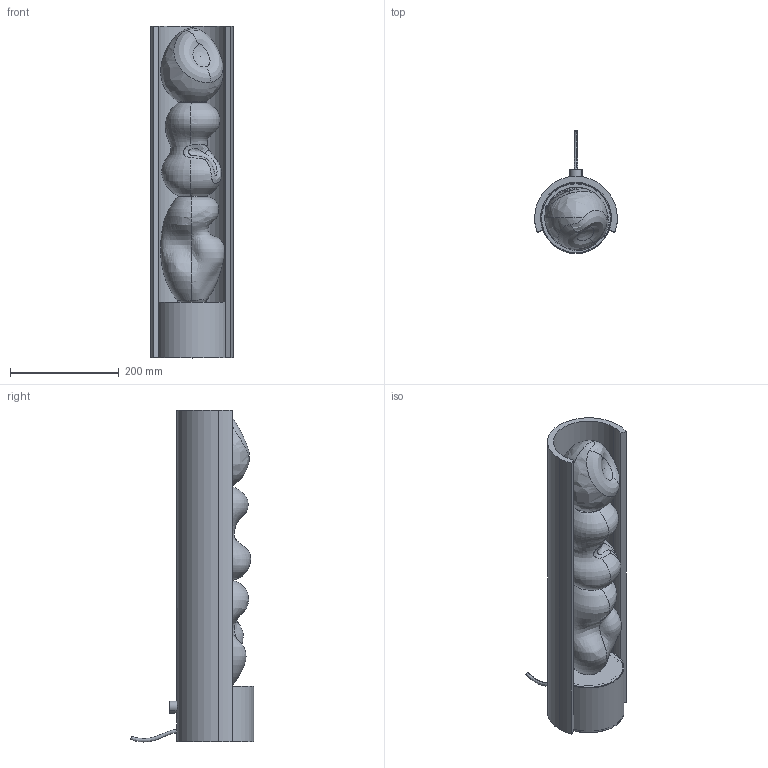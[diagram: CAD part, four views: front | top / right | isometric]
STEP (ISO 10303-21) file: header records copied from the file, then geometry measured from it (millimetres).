
FILE_DESCRIPTION (( 'STEP AP214' ), '1' );
FILE_NAME ('Anna Karlin - Triplet Table Lamp.STEP', '2026-05-06T19:37:53', ( '' ), ( '' ), 'SwSTEP 2.0', 'SolidWorks 2023', '' );
FILE_SCHEMA (( 'AUTOMOTIVE_DESIGN' ));
Length unit declared in the file: inch
Products named in the file (12): TS_Shade REV1_TBL; TS_Bubble-Glass-1_Hollowed 2; Dim-Knob-1; TS_Bubble-Glass-2_Hollowed 2; TS_Bottom-Cover; Anna Karlin - Triplet Table Lamp; TS_Bubble-Glass-3_Hollowed 2; Part1^Triplet Table Lamp Rev 1; TS_Check-Collar-1; TS_Base_V2; TS_Check-Collar-2; TS_Top-Cover_V2
Assembly tree (12 placements, depth 2):
  Anna Karlin - Triplet Table Lamp
    TS_Bottom-Cover
    TS_Base_V2
    TS_Shade REV1_TBL
    TS_Top-Cover_V2
    TS_Bubble-Glass-1_Hollowed 2
    TS_Bubble-Glass-2_Hollowed 2
    TS_Bubble-Glass-3_Hollowed 2
    TS_Check-Collar-1  x2
    TS_Check-Collar-2
    Part1^Triplet Table Lamp Rev 1
    Dim-Knob-1
Bounding box: 152 x 226.17 x 610.11 mm (x, y, z)
Volume: 2971405.5 mm3; surface area: 819318.8 mm2
Topology: 12 solids, 12 shells, 243 faces, 577 edges, 372 vertices
Faces by surface type: cylinder 109, plane 56, bspline 56, cone 18, sphere 4
Entity records: 352850 total; most frequent: CARTESIAN_POINT 347455, ORIENTED_EDGE 1060, DIRECTION 945, EDGE_CURVE 530, AXIS2_PLACEMENT_3D 402, VERTEX_POINT 346, EDGE_LOOP 280, ADVANCED_FACE 231
